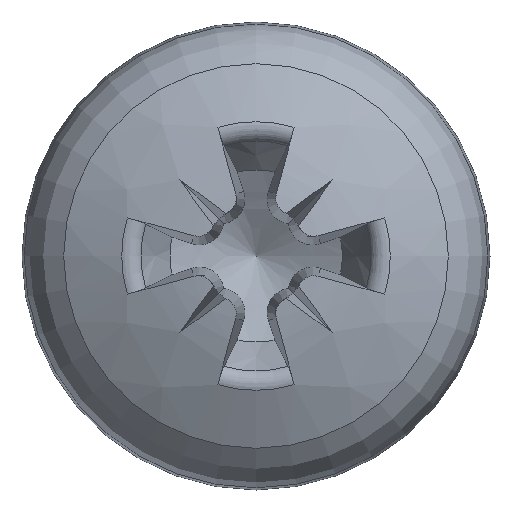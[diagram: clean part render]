
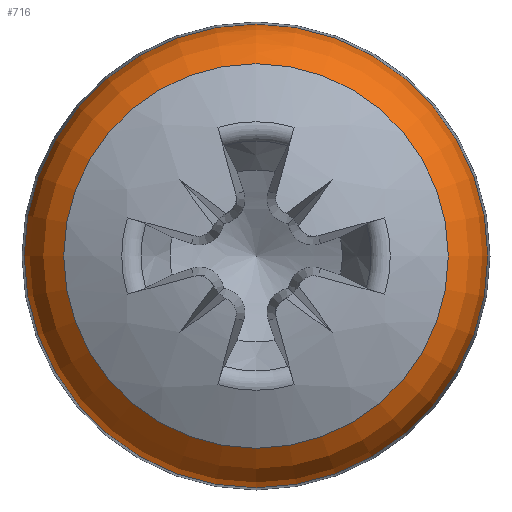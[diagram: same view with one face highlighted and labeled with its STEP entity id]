
A CAD part, left-side view. The second image highlights one B-rep face of the part: STEP entity #716.
In plain terms, the highlighted toroidal (fillet/blend) face has major radius 3.944 mm and minor radius 2 mm.
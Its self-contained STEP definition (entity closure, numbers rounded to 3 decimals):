
#74=TOROIDAL_SURFACE('',#796,3.944,2.);
#106=FACE_OUTER_BOUND('',#148,.T.);
#148=EDGE_LOOP('',(#502,#503,#504,#505,#506,#507,#508));
#235=CIRCLE('',#797,5.943);
#236=CIRCLE('',#798,5.943);
#237=CIRCLE('',#799,2.);
#238=CIRCLE('',#800,4.93);
#239=CIRCLE('',#801,4.93);
#240=CIRCLE('',#802,5.943);
#293=VERTEX_POINT('',#1242);
#294=VERTEX_POINT('',#1243);
#295=VERTEX_POINT('',#1245);
#296=VERTEX_POINT('',#1247);
#297=VERTEX_POINT('',#1249);
#377=EDGE_CURVE('',#293,#294,#235,.T.);
#378=EDGE_CURVE('',#294,#295,#236,.T.);
#379=EDGE_CURVE('',#295,#296,#237,.T.);
#380=EDGE_CURVE('',#296,#297,#238,.T.);
#381=EDGE_CURVE('',#297,#296,#239,.T.);
#382=EDGE_CURVE('',#295,#293,#240,.T.);
#502=ORIENTED_EDGE('',*,*,#377,.T.);
#503=ORIENTED_EDGE('',*,*,#378,.T.);
#504=ORIENTED_EDGE('',*,*,#379,.T.);
#505=ORIENTED_EDGE('',*,*,#380,.T.);
#506=ORIENTED_EDGE('',*,*,#381,.T.);
#507=ORIENTED_EDGE('',*,*,#379,.F.);
#508=ORIENTED_EDGE('',*,*,#382,.T.);
#716=ADVANCED_FACE('',(#106),#74,.T.);
#796=AXIS2_PLACEMENT_3D('',#1241,#925,#926);
#797=AXIS2_PLACEMENT_3D('',#1244,#927,#928);
#798=AXIS2_PLACEMENT_3D('',#1246,#929,#930);
#799=AXIS2_PLACEMENT_3D('',#1248,#931,#932);
#800=AXIS2_PLACEMENT_3D('',#1250,#933,#934);
#801=AXIS2_PLACEMENT_3D('',#1251,#935,#936);
#802=AXIS2_PLACEMENT_3D('',#1252,#937,#938);
#925=DIRECTION('center_axis',(1.,0.,0.));
#926=DIRECTION('ref_axis',(0.,0.,-1.));
#927=DIRECTION('center_axis',(-1.,0.,0.));
#928=DIRECTION('ref_axis',(0.,-1.,0.));
#929=DIRECTION('center_axis',(-1.,0.,0.));
#930=DIRECTION('ref_axis',(0.,-1.,0.));
#931=DIRECTION('center_axis',(0.,-1.,0.));
#932=DIRECTION('ref_axis',(0.,0.,1.));
#933=DIRECTION('center_axis',(1.,0.,0.));
#934=DIRECTION('ref_axis',(0.,-1.,0.));
#935=DIRECTION('center_axis',(1.,0.,0.));
#936=DIRECTION('ref_axis',(0.,-1.,0.));
#937=DIRECTION('center_axis',(-1.,0.,0.));
#938=DIRECTION('ref_axis',(0.,-1.,0.));
#1241=CARTESIAN_POINT('Origin',(-1.56,0.,
0.));
#1242=CARTESIAN_POINT('',(-1.63,5.943,0.));
#1243=CARTESIAN_POINT('',(-1.63,-5.943,0.));
#1244=CARTESIAN_POINT('Origin',(-1.63,0.,0.));
#1245=CARTESIAN_POINT('',(-1.63,0.,5.943));
#1246=CARTESIAN_POINT('Origin',(-1.63,0.,0.));
#1247=CARTESIAN_POINT('',(-3.3,0.,4.93));
#1248=CARTESIAN_POINT('Origin',(-1.56,0.,
3.944));
#1249=CARTESIAN_POINT('',(-3.3,4.93,0.));
#1250=CARTESIAN_POINT('Origin',(-3.3,0.,
0.));
#1251=CARTESIAN_POINT('Origin',(-3.3,0.,
0.));
#1252=CARTESIAN_POINT('Origin',(-1.63,0.,0.));
